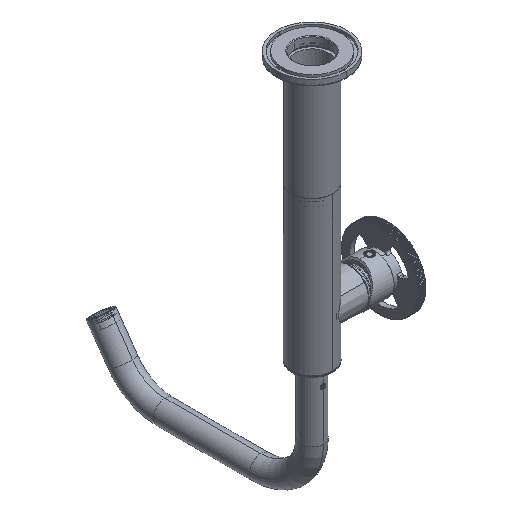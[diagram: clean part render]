
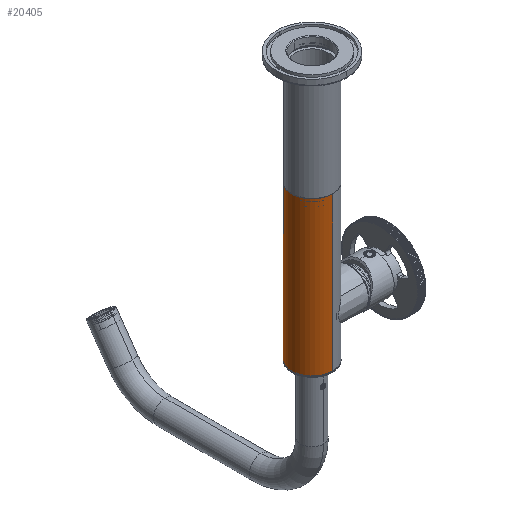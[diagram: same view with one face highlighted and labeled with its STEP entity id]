
A CAD part, isometric view. The second image highlights one B-rep face of the part: STEP entity #20405.
In plain terms, the highlighted cylindrical face has radius 16 mm (diameter 32 mm), a partial arc.
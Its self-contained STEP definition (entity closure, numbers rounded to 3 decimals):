
#2773 = VECTOR ( 'NONE', #32300, 1000. ) ;
#3152 = AXIS2_PLACEMENT_3D ( 'NONE', #4899, #6123, #48446 ) ;
#4899 = CARTESIAN_POINT ( 'NONE',  ( 0., 0., 120. ) ) ;
#6123 = DIRECTION ( 'NONE',  ( 0., 0., -1. ) ) ;
#12121 = EDGE_CURVE ( 'NONE', #17814, #48994, #59617, .T. ) ;
#13326 = EDGE_CURVE ( 'NONE', #17814, #43833, #43238, .T. ) ;
#13587 = AXIS2_PLACEMENT_3D ( 'NONE', #44192, #39148, #29367 ) ;
#14639 = EDGE_CURVE ( 'NONE', #43833, #21703, #17766, .T. ) ;
#17766 = LINE ( 'NONE', #28189, #2773 ) ;
#17814 = VERTEX_POINT ( 'NONE', #56682 ) ;
#17910 = ORIENTED_EDGE ( 'NONE', *, *, #39160, .T. ) ;
#18977 = CARTESIAN_POINT ( 'NONE',  ( -16., 0., 0. ) ) ;
#20279 = CARTESIAN_POINT ( 'NONE',  ( 16., 0., 0. ) ) ;
#20405 = ADVANCED_FACE ( 'NONE', ( #53182 ), #29216, .T. ) ;
#21703 = VERTEX_POINT ( 'NONE', #20279 ) ;
#23531 = DIRECTION ( 'NONE',  ( 0., 0., 1. ) ) ;
#28189 = CARTESIAN_POINT ( 'NONE',  ( 16., 0., 120. ) ) ;
#29216 = CYLINDRICAL_SURFACE ( 'NONE', #3152, 16. ) ;
#29367 = DIRECTION ( 'NONE',  ( 1., 0., 0. ) ) ;
#31527 = DIRECTION ( 'NONE',  ( 0., 0., -1. ) ) ;
#32300 = DIRECTION ( 'NONE',  ( 0., 0., -1. ) ) ;
#36210 = AXIS2_PLACEMENT_3D ( 'NONE', #61725, #23531, #52232 ) ;
#36424 = ORIENTED_EDGE ( 'NONE', *, *, #13326, .F. ) ;
#39148 = DIRECTION ( 'NONE',  ( 0., 0., 1. ) ) ;
#39160 = EDGE_CURVE ( 'NONE', #48994, #21703, #40811, .T. ) ;
#40811 = CIRCLE ( 'NONE', #13587, 16. ) ;
#43238 = CIRCLE ( 'NONE', #36210, 16. ) ;
#43279 = ORIENTED_EDGE ( 'NONE', *, *, #14639, .F. ) ;
#43449 = CARTESIAN_POINT ( 'NONE',  ( 16., 0., 120. ) ) ;
#43833 = VERTEX_POINT ( 'NONE', #43449 ) ;
#44192 = CARTESIAN_POINT ( 'NONE',  ( 0., 0., 0. ) ) ;
#47286 = VECTOR ( 'NONE', #31527, 1000. ) ;
#48446 = DIRECTION ( 'NONE',  ( -1., 0., 0. ) ) ;
#48994 = VERTEX_POINT ( 'NONE', #18977 ) ;
#49820 = CARTESIAN_POINT ( 'NONE',  ( -16., 0., 120. ) ) ;
#52232 = DIRECTION ( 'NONE',  ( 1., 0., 0. ) ) ;
#53182 = FACE_OUTER_BOUND ( 'NONE', #59033, .T. ) ;
#56682 = CARTESIAN_POINT ( 'NONE',  ( -16., 0., 120. ) ) ;
#57611 = ORIENTED_EDGE ( 'NONE', *, *, #12121, .T. ) ;
#59033 = EDGE_LOOP ( 'NONE', ( #43279, #36424, #57611, #17910 ) ) ;
#59617 = LINE ( 'NONE', #49820, #47286 ) ;
#61725 = CARTESIAN_POINT ( 'NONE',  ( 0., 0., 120. ) ) ;
